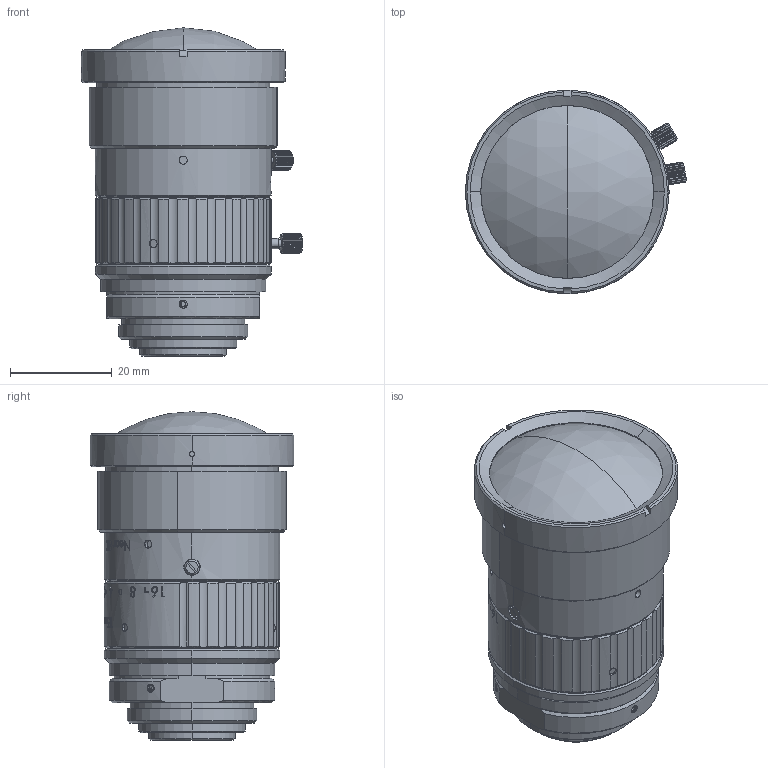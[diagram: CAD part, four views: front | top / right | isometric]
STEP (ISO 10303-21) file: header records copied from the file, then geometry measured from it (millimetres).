
FILE_DESCRIPTION (( 'STEP AP203' ), '1' );
FILE_NAME ('3d_ml-t0528-18c_a001.STEP', '2019-10-15T07:18:28', ( '' ), ( '' ), 'SwSTEP 2.0', 'SolidWorks 2017', '' );
FILE_SCHEMA (( 'CONFIG_CONTROL_DESIGN' ));
Length unit declared in the file: millimetre
Products named in the file (1): 3d_ml-t0528-18c_a001
Bounding box: 43.44 x 40 x 64.54 mm (x, y, z)
Volume: 56035.2 mm3; surface area: 10803.9 mm2
Topology: 1 solids, 1 shells, 868 faces, 2282 edges, 1494 vertices
Faces by surface type: cylinder 356, plane 273, bspline 161, cone 76, sphere 2
Entity records: 43332 total; most frequent: CARTESIAN_POINT 24073, ORIENTED_EDGE 4564, DIRECTION 3053, EDGE_CURVE 2282, VERTEX_POINT 1494, AXIS2_PLACEMENT_3D 1178, B_SPLINE_CURVE_WITH_KNOTS 1115, EDGE_LOOP 946
